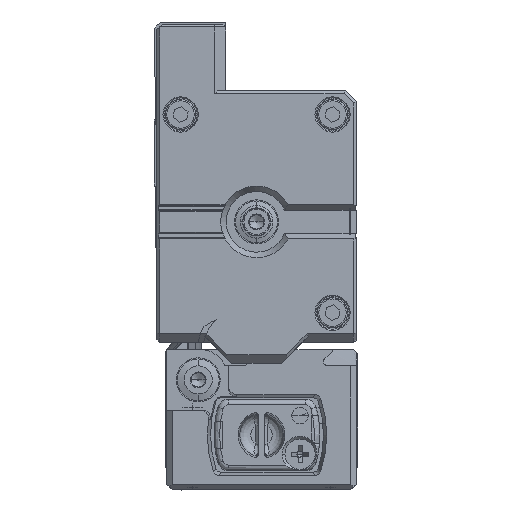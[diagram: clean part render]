
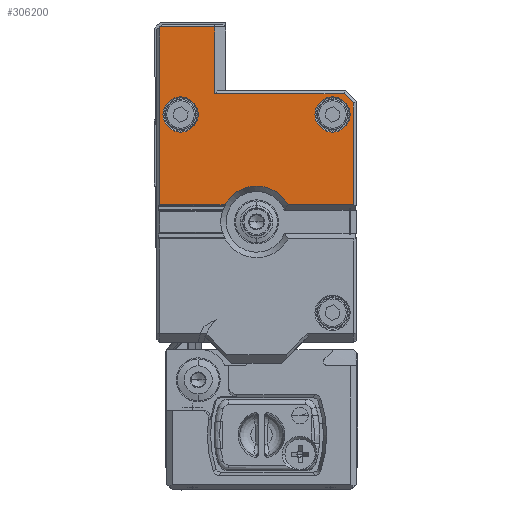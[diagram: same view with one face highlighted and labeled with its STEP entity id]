
A CAD part, left-side view. The second image highlights one B-rep face of the part: STEP entity #306200.
In plain terms, the highlighted planar face has unit normal (-1, 0, 0).
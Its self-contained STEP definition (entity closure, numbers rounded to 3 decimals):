
#300450=CARTESIAN_POINT('',(516.911,-28.8,
-61.394));
#300460=VERTEX_POINT('',#300450);
#300490=CARTESIAN_POINT('',(516.911,-28.8,
0.464));
#300500=DIRECTION('',(0.,0.,1.));
#300510=VECTOR('',#300500,1.);
#300520=LINE('',#300490,#300510);
#300530=CARTESIAN_POINT('',(516.911,-28.8,
-79.876));
#300540=VERTEX_POINT('',#300530);
#300550=EDGE_CURVE('',#300540,#300460,#300520,.T.);
#301140=CARTESIAN_POINT('',(516.911,-54.,
-81.583));
#301150=VERTEX_POINT('',#301140);
#301180=CARTESIAN_POINT('',(516.911,-54.,
-88.233));
#301190=DIRECTION('',(0.,0.,1.));
#301200=VECTOR('',#301190,1.);
#301210=LINE('',#301180,#301200);
#301220=CARTESIAN_POINT('',(516.911,-54.,
-93.683));
#301230=VERTEX_POINT('',#301220);
#301240=EDGE_CURVE('',#301230,#301150,#301210,.T.);
#302440=CARTESIAN_POINT('',(516.911,-30.507,
-81.583));
#302450=VERTEX_POINT('',#302440);
#302480=CARTESIAN_POINT('',(516.911,7.15,
-81.583));
#302490=DIRECTION('',(0.,1.,0.));
#302500=VECTOR('',#302490,1.);
#302510=LINE('',#302480,#302500);
#302520=EDGE_CURVE('',#301150,#302450,#302510,.T.);
#302720=CARTESIAN_POINT('',(516.911,-29.654,
-80.73));
#302730=DIRECTION('',(0.,0.707,
0.707));
#302740=VECTOR('',#302730,1.);
#302750=LINE('',#302720,#302740);
#302760=EDGE_CURVE('',#302450,#300540,#302750,.T.);
#305210=CARTESIAN_POINT('',(516.911,-64.,
-93.683));
#305220=VERTEX_POINT('',#305210);
#305270=CARTESIAN_POINT('',(516.911,7.15,
-93.683));
#305280=DIRECTION('',(0.,1.,0.));
#305290=VECTOR('',#305280,1.);
#305300=LINE('',#305270,#305290);
#305310=EDGE_CURVE('',#305220,#301230,#305300,.T.);
#305430=CARTESIAN_POINT('',(516.911,-51.404,
-48.302));
#305440=DIRECTION('',(-1.,0.,0.));
#305450=DIRECTION('',(0.,0.,1.));
#305460=AXIS2_PLACEMENT_3D('',#305430,#305440,#305450);
#305470=PLANE('',#305460);
#305480=CARTESIAN_POINT('',(516.911,-32.6,
-77.783));
#305490=DIRECTION('',(-1.,0.,0.));
#305500=DIRECTION('',(0.,1.,0.));
#305510=AXIS2_PLACEMENT_3D('',#305480,#305490,#305500);
#305520=CIRCLE('',#305510,3.2);
#305530=CARTESIAN_POINT('',(516.911,-29.4,
-77.783));
#305540=VERTEX_POINT('',#305530);
#305550=CARTESIAN_POINT('',(516.911,-35.8,
-77.783));
#305560=VERTEX_POINT('',#305550);
#305570=EDGE_CURVE('',#305540,#305560,#305520,.T.);
#305580=ORIENTED_EDGE('',*,*,#305570,.F.);
#305590=EDGE_CURVE('',#305560,#305540,#305520,.T.);
#305600=ORIENTED_EDGE('',*,*,#305590,.F.);
#305610=EDGE_LOOP('',(#305600,#305580));
#305620=FACE_BOUND('',#305610,.T.);
#305630=CARTESIAN_POINT('',(516.911,-60.2,
-77.783));
#305640=DIRECTION('',(-1.,0.,0.));
#305650=DIRECTION('',(0.,1.,0.));
#305660=AXIS2_PLACEMENT_3D('',#305630,#305640,#305650);
#305670=CIRCLE('',#305660,3.2);
#305680=CARTESIAN_POINT('',(516.911,-60.2,
-74.583));
#305690=VERTEX_POINT('',#305680);
#305700=CARTESIAN_POINT('',(516.911,-57.,
-77.783));
#305710=VERTEX_POINT('',#305700);
#305720=EDGE_CURVE('',#305690,#305710,#305670,.T.);
#305730=ORIENTED_EDGE('',*,*,#305720,.F.);
#305740=CARTESIAN_POINT('',(516.911,-63.4,
-77.783));
#305750=VERTEX_POINT('',#305740);
#305760=EDGE_CURVE('',#305710,#305750,#305670,.T.);
#305770=ORIENTED_EDGE('',*,*,#305760,.F.);
#305780=EDGE_CURVE('',#305750,#305690,#305670,.T.);
#305790=ORIENTED_EDGE('',*,*,#305780,.F.);
#305800=EDGE_LOOP('',(#305790,#305770,#305730));
#305810=FACE_BOUND('',#305800,.T.);
#305820=ORIENTED_EDGE('',*,*,#305310,.F.);
#305830=ORIENTED_EDGE('',*,*,#301240,.F.);
#305840=ORIENTED_EDGE('',*,*,#302520,.F.);
#305850=ORIENTED_EDGE('',*,*,#302760,.F.);
#305860=ORIENTED_EDGE('',*,*,#300550,.F.);
#305870=CARTESIAN_POINT('',(516.911,7.15,
-61.394));
#305880=DIRECTION('',(0.,1.,0.));
#305890=VECTOR('',#305880,1.);
#305900=LINE('',#305870,#305890);
#305910=CARTESIAN_POINT('',(516.911,-40.681,
-61.394));
#305920=VERTEX_POINT('',#305910);
#305930=EDGE_CURVE('',#305920,#300460,#305900,.T.);
#305940=ORIENTED_EDGE('',*,*,#305930,.T.);
#305950=CARTESIAN_POINT('',(516.911,-46.4,
-58.283));
#305960=DIRECTION('',(-1.,0.,0.));
#305970=DIRECTION('',(0.,-1.,0.));
#305980=AXIS2_PLACEMENT_3D('',#305950,#305960,#305970);
#305990=CIRCLE('',#305980,6.51);
#306000=CARTESIAN_POINT('',(516.911,-52.125,
-61.383));
#306010=VERTEX_POINT('',#306000);
#306020=EDGE_CURVE('',#305920,#306010,#305990,.T.);
#306030=ORIENTED_EDGE('',*,*,#306020,.F.);
#306040=CARTESIAN_POINT('',(516.911,7.15,
-61.383));
#306050=DIRECTION('',(0.,-1.,0.));
#306060=VECTOR('',#306050,1.);
#306070=LINE('',#306040,#306060);
#306080=CARTESIAN_POINT('',(516.911,-64.,
-61.383));
#306090=VERTEX_POINT('',#306080);
#306100=EDGE_CURVE('',#306010,#306090,#306070,.T.);
#306110=ORIENTED_EDGE('',*,*,#306100,.F.);
#306120=CARTESIAN_POINT('',(516.911,-64.,
0.464));
#306130=DIRECTION('',(0.,0.,1.));
#306140=VECTOR('',#306130,1.);
#306150=LINE('',#306120,#306140);
#306160=EDGE_CURVE('',#305220,#306090,#306150,.T.);
#306170=ORIENTED_EDGE('',*,*,#306160,.T.);
#306180=EDGE_LOOP('',(#306170,#306110,#306030,#305940,#305860,#305850,
#305840,#305830,#305820));
#306190=FACE_OUTER_BOUND('',#306180,.T.);
#306200=ADVANCED_FACE('',(#305620,#305810,#306190),#305470,.T.);
